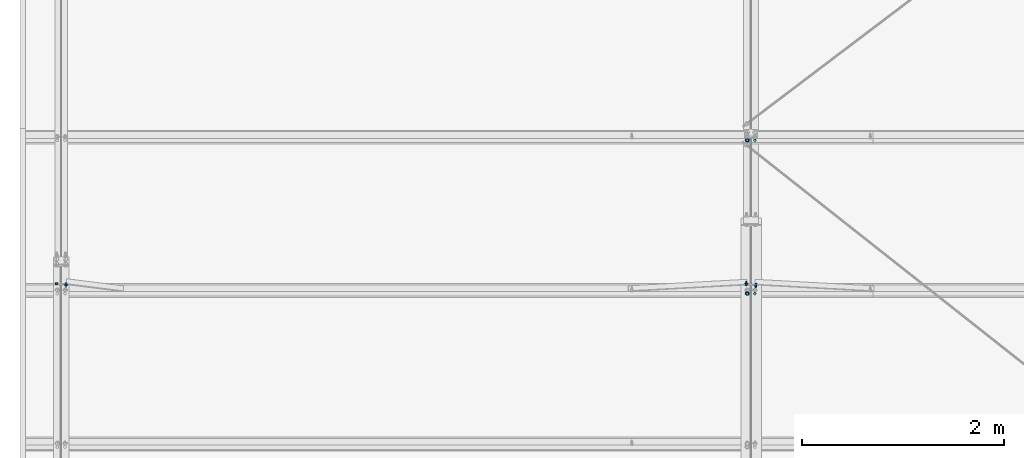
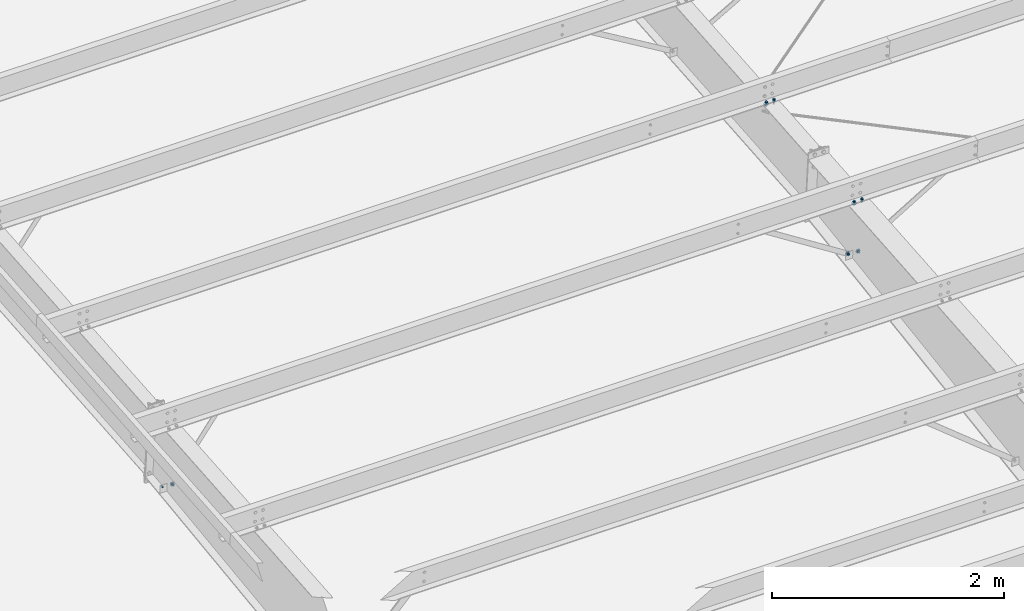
# One storey, part 123 of 185: 11 mechanical fasteners, 7 elements without a shape of their own.
"""IFC2X3 building model written with IfcOpenShell, lengths in millimetres."""

from ifc_helpers import new_model, si_unit, frame, origin_with_axes, origin_2d_with_axis, place, context, subcontext, project, spatial, polyline, circle, outline, extrude, source, transform, mapped, material, type_object, element, aggregate, save


model = new_model("IFC2X3")

# Units and contexts
model_context = context("Model", 3, precision=1e-05, world=origin_with_axes())
body_context = subcontext(model_context, "Body", "Model", "MODEL_VIEW")
ifc_project = project(units=[si_unit("LENGTHUNIT", "METRE", prefix="MILLI"), si_unit("AREAUNIT", "SQUARE_METRE"), si_unit("VOLUMEUNIT", "CUBIC_METRE"), si_unit("MASSUNIT", "GRAM", prefix="KILO"), si_unit("TIMEUNIT", "SECOND"), si_unit("PLANEANGLEUNIT", "RADIAN"), si_unit("SOLIDANGLEUNIT", "STERADIAN"), si_unit("THERMODYNAMICTEMPERATUREUNIT", "DEGREE_CELSIUS"), si_unit("LUMINOUSINTENSITYUNIT", "LUMEN")], contexts=[model_context])

# Site, building, storey
site_placement = place(None, origin_with_axes())
site = spatial("IfcSite", under=ifc_project, at=site_placement, Name="Undefined", CompositionType="ELEMENT")
building_placement = place(site_placement, origin_with_axes())
building = spatial("IfcBuilding", under=site, at=building_placement, Name="Undefined", CompositionType="ELEMENT")
storey_placement = place(building_placement, origin_with_axes())
storey = spatial("IfcBuildingStorey", under=building, at=storey_placement, Name="Undefined", CompositionType="ELEMENT", Elevation=0.0)

# Assembly, mechanical fastener
assembly_1_placement = place(storey_placement, origin_with_axes())
assembly_1 = element("IfcElementAssembly", 1, at=assembly_1_placement, inside=storey, Name="Steel Assembly", AssemblyPlace="NOTDEFINED", PredefinedType="RIGID_FRAME")
ifc_material_1 = material(Name="Undefined")
discrete_accessory_type = type_object("IfcDiscreteAccessoryType", Name="Bolt assembly")
shared_shape_1 = source(origin_with_axes(), body_context, "Body", "SweptSolid", [
    extrude(circle(Radius=7.14374971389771, at=origin_2d_with_axis()), frame((0.0, -1.59000001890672, 0.0), z_axis=(0.0, 1.0, 0.0), x_axis=(1.0, 0.0, 0.0)), (0.0, 0.0, 1.0), 1.7),
    extrude(outline(polyline([(10.9985221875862, 0.0), (5.4992610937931, 9.52499961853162), (-5.4992610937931, 9.52499961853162), (-10.9985221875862, 0.0), (-5.4992610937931, -9.52499961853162), (5.4992610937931, -9.52499961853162), (10.9985221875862, 0.0)])), frame((0.0, -15.0837496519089, 0.0), z_axis=(0.0, 1.0, 0.0), x_axis=(1.0, 0.0, 0.0)), (0.0, 0.0, 1.0), 9.5),
    extrude(circle(Radius=6.34999990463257, at=origin_2d_with_axis()), frame((0.0, -5.5587500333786, 0.0), z_axis=(0.0, 1.0, 0.0), x_axis=(1.0, 0.0, 0.0)), (0.0, 0.0, 1.0), 38.1),
    extrude(circle(Radius=13.4937496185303, at=origin_2d_with_axis()), frame((0.0, -5.5587500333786, 0.0), z_axis=(0.0, 1.0, 0.0), x_axis=(1.0, 0.0, 0.0)), (0.0, 0.0, 1.0), 4.0),
    extrude(circle(Radius=22.2250003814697, at=origin_2d_with_axis()), frame((0.0, 0.0, 0.0), z_axis=(0.0, 1.0, 0.0), x_axis=(1.0, 0.0, 0.0)), (0.0, 0.0, 1.0), 7.9),
    extrude(outline(polyline([(12.8316099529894, 0.0), (6.4158049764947, 11.1125001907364), (-6.4158049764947, 11.1125001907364), (-12.8316099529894, 0.0), (-6.4158049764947, -11.1125001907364), (6.4158049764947, -11.1125001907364), (12.8316099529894, 0.0)])), frame((0.0, 7.93750000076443, 0.0), z_axis=(0.0, 1.0, 0.0), x_axis=(1.0, 0.0, 0.0)), (0.0, 0.0, 1.0), 12.3),
])
mechanical_fastener_1_placement = place(assembly_1_placement, frame((453.778596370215, 5139.48666846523, 5649.65611461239), z_axis=(0.836906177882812, 0.0454546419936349, -0.545455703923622), x_axis=(0.54734637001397, -0.0695012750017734, 0.834015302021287)))
mechanical_fastener_1 = element("IfcMechanicalFastener", 2, at=mechanical_fastener_1_placement, type_object=discrete_accessory_type, material=ifc_material_1, Name="Bolt assembly", NominalDiameter=12.6999998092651, NominalLength=38.0999984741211, context=body_context, shape_type="MappedRepresentation", body=[
    mapped(shared_shape_1, transform((0.0, 0.0, 0.0))),
])
aggregate(assembly_1, [mechanical_fastener_1])

assembly_2_placement = place(storey_placement, origin_with_axes())
assembly_2 = element("IfcElementAssembly", 3, at=assembly_2_placement, inside=storey, Name="Steel Assembly", AssemblyPlace="NOTDEFINED", PredefinedType="RIGID_FRAME")
mechanical_fastener_2_placement = place(assembly_2_placement, frame((7286.66392618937, 5133.85828382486, 5717.19673029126), z_axis=(0.553384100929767, 0.0691707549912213, -0.830049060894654), x_axis=(0.832926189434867, -0.0459560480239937, 0.551472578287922)))
mechanical_fastener_2 = element("IfcMechanicalFastener", 4, at=mechanical_fastener_2_placement, type_object=discrete_accessory_type, material=ifc_material_1, Name="Bolt assembly", NominalDiameter=12.6999998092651, NominalLength=38.0999984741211, context=body_context, shape_type="MappedRepresentation", body=[
    mapped(shared_shape_1, transform((0.0, 0.0, 0.0))),
])
aggregate(assembly_2, [mechanical_fastener_2])

assembly_3_placement = place(storey_placement, origin_with_axes())
assembly_3 = element("IfcElementAssembly", 5, at=assembly_3_placement, inside=storey, Name="Steel Assembly", AssemblyPlace="NOTDEFINED", PredefinedType="RIGID_FRAME")
shared_shape_2 = source(origin_with_axes(), body_context, "Body", "SweptSolid", [
    extrude(circle(Radius=7.14374971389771, at=origin_2d_with_axis()), frame((0.0, 0.0, 0.0), z_axis=(0.0, 1.0, 0.0), x_axis=(1.0, 0.0, 0.0)), (0.0, 0.0, 1.0), 1.7),
    extrude(outline(polyline([(10.9985221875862, 0.0), (5.4992610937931, 9.52499961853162), (-5.4992610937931, 9.52499961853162), (-10.9985221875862, 0.0), (-5.4992610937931, -9.52499961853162), (5.4992610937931, -9.52499961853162), (10.9985221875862, 0.0)])), frame((0.0, -13.4937496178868, 0.0), z_axis=(0.0, 1.0, 0.0), x_axis=(1.0, 0.0, 0.0)), (0.0, 0.0, 1.0), 9.5),
    extrude(circle(Radius=6.34999990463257, at=origin_2d_with_axis()), frame((0.0, -3.96874999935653, 0.0), z_axis=(0.0, 1.0, 0.0), x_axis=(1.0, 0.0, 0.0)), (0.0, 0.0, 1.0), 38.1),
    extrude(circle(Radius=13.4937496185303, at=origin_2d_with_axis()), frame((0.0, -3.96874999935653, 0.0), z_axis=(0.0, 1.0, 0.0), x_axis=(1.0, 0.0, 0.0)), (0.0, 0.0, 1.0), 4.0),
    extrude(circle(Radius=22.2250003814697, at=origin_2d_with_axis()), frame((0.0, 1.5900000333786, 0.0), z_axis=(0.0, 1.0, 0.0), x_axis=(1.0, 0.0, 0.0)), (0.0, 0.0, 1.0), 7.9),
    extrude(outline(polyline([(12.8316099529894, 0.0), (6.4158049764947, 11.1125001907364), (-6.4158049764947, 11.1125001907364), (-12.8316099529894, 0.0), (-6.4158049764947, -11.1125001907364), (6.4158049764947, -11.1125001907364), (12.8316099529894, 0.0)])), frame((0.0, 9.5275000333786, 0.0), z_axis=(0.0, 1.0, 0.0), x_axis=(1.0, 0.0, 0.0)), (0.0, 0.0, 1.0), 12.3),
])
mechanical_fastener_3_placement = place(assembly_3_placement, frame((7191.33607381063, 5133.85828382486, 5717.19673029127), z_axis=(-0.553384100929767, 0.0691707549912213, -0.830049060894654), x_axis=(-0.832926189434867, -0.0459560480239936, 0.551472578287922)))
mechanical_fastener_3 = element("IfcMechanicalFastener", 6, at=mechanical_fastener_3_placement, type_object=discrete_accessory_type, material=ifc_material_1, Name="Bolt assembly", NominalDiameter=12.6999998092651, NominalLength=38.0999984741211, context=body_context, shape_type="MappedRepresentation", body=[
    mapped(shared_shape_2, transform((0.0, 0.0, 0.0))),
])
aggregate(assembly_3, [mechanical_fastener_3])

assembly_4_placement = place(storey_placement, origin_with_axes())
assembly_4 = element("IfcElementAssembly", 7, at=assembly_4_placement, inside=storey, Name="Steel Assembly", AssemblyPlace="NOTDEFINED", PredefinedType="RIGID_FRAME")
ifc_material_2 = material(Name="7990")
shared_shape_3 = source(origin_with_axes(), body_context, "Body", "SweptSolid", [
    extrude(circle(Radius=7.14374971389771, at=origin_2d_with_axis()), frame((0.0, -3.41600000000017, 0.0), z_axis=(0.0, 1.0, 0.0), x_axis=(1.0, 0.0, 0.0)), (0.0, 0.0, 1.0), 3.5),
    extrude(circle(Radius=11.4299998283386, at=origin_2d_with_axis()), frame((0.0, 0.0, 0.0), z_axis=(0.0, 1.0, 0.0), x_axis=(1.0, 0.0, 0.0)), (0.0, 0.0, 1.0), 4.2),
    extrude(outline(polyline([(12.171698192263, 0.0), (6.08584909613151, 10.5409998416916), (-6.08584909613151, 10.5409998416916), (-12.171698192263, 0.0), (-6.08584909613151, -10.5409998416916), (6.08584909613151, -10.5409998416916), (12.171698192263, 0.0)])), frame((0.0, 4.1909999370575, 0.0), z_axis=(0.0, 1.0, 0.0), x_axis=(1.0, 0.0, 0.0)), (0.0, 0.0, 1.0), 8.4),
])
mechanical_fastener_4_placement = place(assembly_4_placement, frame((359.568750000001, 5139.55616974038, 5648.82209931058), z_axis=(0.921635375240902, 0.0322263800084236, -0.386716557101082), x_axis=(-0.388056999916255, 0.0765376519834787, -0.9184518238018)))
mechanical_fastener_4 = element("IfcMechanicalFastener", 8, at=mechanical_fastener_4_placement, type_object=discrete_accessory_type, material=ifc_material_2, Name="Bolt assembly", NominalDiameter=12.6999998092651, NominalLength=38.0999984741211, context=body_context, shape_type="MappedRepresentation", body=[
    mapped(shared_shape_3, transform((0.0, 0.0, 0.0))),
])

assembly_5_placement = place(storey_placement, origin_with_axes())
assembly_5 = element("IfcElementAssembly", 9, at=assembly_5_placement, inside=storey, Name="Steel Assembly", AssemblyPlace="NOTDEFINED", PredefinedType="RIGID_FRAME")
mechanical_fastener_5_placement = place(assembly_5_placement, frame((7192.169, 5133.90423987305, 5716.64525771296), z_axis=(0.921635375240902, 0.0322263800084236, -0.386716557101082), x_axis=(-0.388056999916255, 0.0765376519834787, -0.9184518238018)))
mechanical_fastener_5 = element("IfcMechanicalFastener", 10, at=mechanical_fastener_5_placement, type_object=discrete_accessory_type, material=ifc_material_2, Name="Bolt assembly", NominalDiameter=12.6999998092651, NominalLength=38.0999984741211, context=body_context, shape_type="MappedRepresentation", body=[
    mapped(shared_shape_3, transform((0.0, 0.0, 0.0))),
])

# Mechanical fastener
shared_shape_4 = source(origin_with_axes(), body_context, "Body", "SweptSolid", [
    extrude(circle(Radius=7.14374971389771, at=origin_2d_with_axis()), frame((0.0, 0.0, 0.0), z_axis=(0.0, 1.0, 0.0), x_axis=(1.0, 0.0, 0.0)), (0.0, 0.0, 1.0), 3.5),
    extrude(circle(Radius=11.4299998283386, at=origin_2d_with_axis()), frame((0.0, 3.41600000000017, 0.0), z_axis=(0.0, 1.0, 0.0), x_axis=(1.0, 0.0, 0.0)), (0.0, 0.0, 1.0), 4.2),
    extrude(outline(polyline([(12.171698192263, 0.0), (6.08584909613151, 10.5409998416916), (-6.08584909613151, 10.5409998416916), (-12.171698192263, 0.0), (-6.08584909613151, -10.5409998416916), (6.08584909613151, -10.5409998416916), (12.171698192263, 0.0)])), frame((0.0, 7.60699993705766, 0.0), z_axis=(0.0, 1.0, 0.0), x_axis=(1.0, 0.0, 0.0)), (0.0, 0.0, 1.0), 8.4),
])
mechanical_fastener_6_placement = place(assembly_4_placement, frame((453.231250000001, 5139.55616974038, 5648.82209931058), z_axis=(-0.921635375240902, 0.0322263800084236, -0.386716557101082), x_axis=(0.388056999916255, 0.0765376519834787, -0.9184518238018)))
mechanical_fastener_6 = element("IfcMechanicalFastener", 11, at=mechanical_fastener_6_placement, type_object=discrete_accessory_type, material=ifc_material_2, Name="Bolt assembly", NominalDiameter=12.6999998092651, NominalLength=38.0999984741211, context=body_context, shape_type="MappedRepresentation", body=[
    mapped(shared_shape_4, transform((0.0, 0.0, 0.0))),
])

aggregate(assembly_4, [mechanical_fastener_6, mechanical_fastener_4])

mechanical_fastener_7_placement = place(assembly_5_placement, frame((7285.831, 5133.90423987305, 5716.64525771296), z_axis=(-0.921635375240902, 0.0322263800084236, -0.386716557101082), x_axis=(0.388056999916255, 0.0765376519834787, -0.9184518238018)))
mechanical_fastener_7 = element("IfcMechanicalFastener", 12, at=mechanical_fastener_7_placement, type_object=discrete_accessory_type, material=ifc_material_2, Name="Bolt assembly", NominalDiameter=12.6999998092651, NominalLength=38.0999984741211, context=body_context, shape_type="MappedRepresentation", body=[
    mapped(shared_shape_4, transform((0.0, 0.0, 0.0))),
])

aggregate(assembly_5, [mechanical_fastener_7, mechanical_fastener_5])

# Assembly, mechanical fasteners
assembly_6_placement = place(storey_placement, origin_with_axes())
assembly_6 = element("IfcElementAssembly", 13, at=assembly_6_placement, inside=storey, Name="Steel Assembly", AssemblyPlace="NOTDEFINED", PredefinedType="RIGID_FRAME")
shared_shape_5 = source(origin_with_axes(), body_context, "Body", "SweptSolid", [
    extrude(circle(Radius=7.14374971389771, at=origin_2d_with_axis()), frame((0.0, -0.0238014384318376, 0.0), z_axis=(0.0, 1.0, 0.0), x_axis=(1.0, 0.0, 0.0)), (0.0, 0.0, 1.0), 8.0),
    extrude(circle(Radius=7.14374971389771, at=origin_2d_with_axis()), frame((0.0, -3.18000030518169, 0.0), z_axis=(0.0, 1.0, 0.0), x_axis=(1.0, 0.0, 0.0)), (0.0, 0.0, 1.0), 3.2),
    extrude(circle(Radius=7.14374971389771, at=origin_2d_with_axis()), frame((0.0, -3.08000006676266, 0.0), z_axis=(0.0, 1.0, 0.0), x_axis=(1.0, 0.0, 0.0)), (0.0, 0.0, 1.0), 3.2),
    extrude(outline(polyline([(12.8316099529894, 0.0), (6.4158049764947, 11.1125001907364), (-6.4158049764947, 11.1125001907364), (-12.8316099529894, 0.0), (-6.4158049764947, -11.1125001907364), (6.4158049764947, -11.1125001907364), (12.8316099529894, 0.0)])), frame((0.0, -15.08625183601, 0.0), z_axis=(0.0, 1.0, 0.0), x_axis=(1.0, 0.0, 0.0)), (0.0, 0.0, 1.0), 7.9),
    extrude(circle(Radius=6.34999990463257, at=origin_2d_with_axis()), frame((0.0, -7.14875006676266, 0.0), z_axis=(0.0, 1.0, 0.0), x_axis=(1.0, 0.0, 0.0)), (0.0, 0.0, 1.0), 50.8),
    extrude(circle(Radius=13.4937496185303, at=origin_2d_with_axis()), frame((0.0, -7.14875006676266, 0.0), z_axis=(0.0, 1.0, 0.0), x_axis=(1.0, 0.0, 0.0)), (0.0, 0.0, 1.0), 4.0),
    extrude(circle(Radius=22.2250003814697, at=origin_2d_with_axis()), frame((0.0, 7.95019856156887, 0.0), z_axis=(0.0, 1.0, 0.0), x_axis=(1.0, 0.0, 0.0)), (0.0, 0.0, 1.0), 7.9),
    extrude(outline(polyline([(12.8316099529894, 0.0), (6.4158049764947, 11.1125001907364), (-6.4158049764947, 11.1125001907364), (-12.8316099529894, 0.0), (-6.4158049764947, -11.1125001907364), (6.4158049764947, -11.1125001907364), (12.8316099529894, 0.0)])), frame((0.0, 15.8876985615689, 0.0), z_axis=(0.0, 1.0, 0.0), x_axis=(1.0, 0.0, 0.0)), (0.0, 0.0, 1.0), 12.3),
])
mechanical_fastener_8_placement = place(assembly_6_placement, frame((7200.9, 6564.74531362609, 6439.15777570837), z_axis=(1.0, 0.0, 0.0), x_axis=(0.0, -0.996545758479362, -0.0830454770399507)))
mechanical_fastener_8 = element("IfcMechanicalFastener", 14, at=mechanical_fastener_8_placement, type_object=discrete_accessory_type, material=ifc_material_1, Name="Bolt assembly", NominalDiameter=12.6999998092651, NominalLength=50.7999992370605, context=body_context, shape_type="MappedRepresentation", body=[
    mapped(shared_shape_5, transform((0.0, 0.0, 0.0))),
])
shared_shape_6 = source(origin_with_axes(), body_context, "Body", "SweptSolid", [
    extrude(circle(Radius=7.14374971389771, at=origin_2d_with_axis()), frame((0.0, -0.0238014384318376, 0.0), z_axis=(0.0, 1.0, 0.0), x_axis=(1.0, 0.0, 0.0)), (0.0, 0.0, 1.0), 8.0),
    extrude(circle(Radius=7.14374971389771, at=origin_2d_with_axis()), frame((0.0, -3.18000030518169, 0.0), z_axis=(0.0, 1.0, 0.0), x_axis=(1.0, 0.0, 0.0)), (0.0, 0.0, 1.0), 3.2),
    extrude(circle(Radius=7.14374971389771, at=origin_2d_with_axis()), frame((0.0, -3.08000006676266, 0.0), z_axis=(0.0, 1.0, 0.0), x_axis=(1.0, 0.0, 0.0)), (0.0, 0.0, 1.0), 3.2),
    extrude(outline(polyline([(12.8316099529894, 0.0), (6.4158049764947, 11.1125001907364), (-6.4158049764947, 11.1125001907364), (-12.8316099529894, 0.0), (-6.4158049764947, -11.1125001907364), (6.4158049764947, -11.1125001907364), (12.8316099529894, 0.0)])), frame((0.0, -15.08625183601, 0.0), z_axis=(0.0, 1.0, 0.0), x_axis=(1.0, 0.0, 0.0)), (0.0, 0.0, 1.0), 7.9),
    extrude(circle(Radius=6.34999990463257, at=origin_2d_with_axis()), frame((0.0, -7.14875006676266, 0.0), z_axis=(0.0, 1.0, 0.0), x_axis=(1.0, 0.0, 0.0)), (0.0, 0.0, 1.0), 50.8),
    extrude(circle(Radius=13.4937496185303, at=origin_2d_with_axis()), frame((0.0, -7.14875006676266, 0.0), z_axis=(0.0, 1.0, 0.0), x_axis=(1.0, 0.0, 0.0)), (0.0, 0.0, 1.0), 4.0),
    extrude(outline(polyline([(12.8316099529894, 0.0), (6.4158049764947, 11.1125001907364), (-6.4158049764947, 11.1125001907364), (-12.8316099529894, 0.0), (-6.4158049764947, -11.1125001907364), (6.4158049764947, -11.1125001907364), (12.8316099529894, 0.0)])), frame((0.0, 7.95019856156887, 0.0), z_axis=(0.0, 1.0, 0.0), x_axis=(1.0, 0.0, 0.0)), (0.0, 0.0, 1.0), 12.3),
])
mechanical_fastener_9_placement = place(assembly_6_placement, frame((7277.1, 6564.74531362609, 6439.15777570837), z_axis=(1.0, 0.0, 0.0), x_axis=(0.0, -0.996545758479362, -0.0830454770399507)))
mechanical_fastener_9 = element("IfcMechanicalFastener", 15, at=mechanical_fastener_9_placement, type_object=discrete_accessory_type, material=ifc_material_1, Name="Bolt assembly", NominalDiameter=12.6999998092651, NominalLength=50.7999992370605, context=body_context, shape_type="MappedRepresentation", body=[
    mapped(shared_shape_6, transform((0.0, 0.0, 0.0))),
])
aggregate(assembly_6, [mechanical_fastener_8, mechanical_fastener_9])

assembly_7_placement = place(storey_placement, origin_with_axes())
assembly_7 = element("IfcElementAssembly", 16, at=assembly_7_placement, inside=storey, Name="Steel Assembly", AssemblyPlace="NOTDEFINED", PredefinedType="RIGID_FRAME")
shared_shape_7 = source(origin_with_axes(), body_context, "Body", "SweptSolid", [
    extrude(circle(Radius=7.14374971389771, at=origin_2d_with_axis()), frame((0.0, -0.0897199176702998, 0.0), z_axis=(0.0, 1.0, 0.0), x_axis=(1.0, 0.0, 0.0)), (0.0, 0.0, 1.0), 8.0),
    extrude(circle(Radius=7.14374971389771, at=origin_2d_with_axis()), frame((0.0, -3.18000030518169, 0.0), z_axis=(0.0, 1.0, 0.0), x_axis=(1.0, 0.0, 0.0)), (0.0, 0.0, 1.0), 3.2),
    extrude(circle(Radius=7.14374971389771, at=origin_2d_with_axis()), frame((0.0, -3.08000006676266, 0.0), z_axis=(0.0, 1.0, 0.0), x_axis=(1.0, 0.0, 0.0)), (0.0, 0.0, 1.0), 3.2),
    extrude(outline(polyline([(10.9985221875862, 0.0), (5.4992610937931, 9.52499961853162), (-5.4992610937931, 9.52499961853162), (-10.9985221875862, 0.0), (-5.4992610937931, -9.52499961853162), (5.4992610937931, -9.52499961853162), (10.9985221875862, 0.0)])), frame((0.0, -16.6737496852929, 0.0), z_axis=(0.0, 1.0, 0.0), x_axis=(1.0, 0.0, 0.0)), (0.0, 0.0, 1.0), 9.5),
    extrude(circle(Radius=6.34999990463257, at=origin_2d_with_axis()), frame((0.0, -7.14875006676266, 0.0), z_axis=(0.0, 1.0, 0.0), x_axis=(1.0, 0.0, 0.0)), (0.0, 0.0, 1.0), 38.1),
    extrude(circle(Radius=13.4937496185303, at=origin_2d_with_axis()), frame((0.0, -7.14875006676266, 0.0), z_axis=(0.0, 1.0, 0.0), x_axis=(1.0, 0.0, 0.0)), (0.0, 0.0, 1.0), 4.0),
    extrude(circle(Radius=22.2250003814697, at=origin_2d_with_axis()), frame((0.0, 7.88428008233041, 0.0), z_axis=(0.0, 1.0, 0.0), x_axis=(1.0, 0.0, 0.0)), (0.0, 0.0, 1.0), 7.9),
    extrude(outline(polyline([(12.8316099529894, 0.0), (6.4158049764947, 11.1125001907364), (-6.4158049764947, 11.1125001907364), (-12.8316099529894, 0.0), (-6.4158049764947, -11.1125001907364), (6.4158049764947, -11.1125001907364), (12.8316099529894, 0.0)])), frame((0.0, 15.8217800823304, 0.0), z_axis=(0.0, 1.0, 0.0), x_axis=(1.0, 0.0, 0.0)), (0.0, 0.0, 1.0), 12.3),
])
mechanical_fastener_10_placement = place(assembly_7_placement, frame((7200.9, 5046.00957656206, 6312.59646403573), z_axis=(1.0, 0.0, 0.0), x_axis=(0.0, -0.996545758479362, -0.0830454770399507)))
mechanical_fastener_10 = element("IfcMechanicalFastener", 17, at=mechanical_fastener_10_placement, type_object=discrete_accessory_type, material=ifc_material_1, Name="Bolt assembly", NominalDiameter=12.6999998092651, NominalLength=38.0999984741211, context=body_context, shape_type="MappedRepresentation", body=[
    mapped(shared_shape_7, transform((0.0, 0.0, 0.0))),
])
shared_shape_8 = source(origin_with_axes(), body_context, "Body", "SweptSolid", [
    extrude(circle(Radius=7.14374971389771, at=origin_2d_with_axis()), frame((0.0, -0.0897199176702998, 0.0), z_axis=(0.0, 1.0, 0.0), x_axis=(1.0, 0.0, 0.0)), (0.0, 0.0, 1.0), 8.0),
    extrude(circle(Radius=7.14374971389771, at=origin_2d_with_axis()), frame((0.0, -3.18000030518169, 0.0), z_axis=(0.0, 1.0, 0.0), x_axis=(1.0, 0.0, 0.0)), (0.0, 0.0, 1.0), 3.2),
    extrude(circle(Radius=7.14374971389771, at=origin_2d_with_axis()), frame((0.0, -3.08000006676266, 0.0), z_axis=(0.0, 1.0, 0.0), x_axis=(1.0, 0.0, 0.0)), (0.0, 0.0, 1.0), 3.2),
    extrude(outline(polyline([(10.9985221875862, 0.0), (5.4992610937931, 9.52499961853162), (-5.4992610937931, 9.52499961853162), (-10.9985221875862, 0.0), (-5.4992610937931, -9.52499961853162), (5.4992610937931, -9.52499961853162), (10.9985221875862, 0.0)])), frame((0.0, -16.6737496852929, 0.0), z_axis=(0.0, 1.0, 0.0), x_axis=(1.0, 0.0, 0.0)), (0.0, 0.0, 1.0), 9.5),
    extrude(circle(Radius=6.34999990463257, at=origin_2d_with_axis()), frame((0.0, -7.14875006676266, 0.0), z_axis=(0.0, 1.0, 0.0), x_axis=(1.0, 0.0, 0.0)), (0.0, 0.0, 1.0), 38.1),
    extrude(circle(Radius=13.4937496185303, at=origin_2d_with_axis()), frame((0.0, -7.14875006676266, 0.0), z_axis=(0.0, 1.0, 0.0), x_axis=(1.0, 0.0, 0.0)), (0.0, 0.0, 1.0), 4.0),
    extrude(outline(polyline([(12.8316099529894, 0.0), (6.4158049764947, 11.1125001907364), (-6.4158049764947, 11.1125001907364), (-12.8316099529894, 0.0), (-6.4158049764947, -11.1125001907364), (6.4158049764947, -11.1125001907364), (12.8316099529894, 0.0)])), frame((0.0, 7.88428008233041, 0.0), z_axis=(0.0, 1.0, 0.0), x_axis=(1.0, 0.0, 0.0)), (0.0, 0.0, 1.0), 12.3),
])
mechanical_fastener_11_placement = place(assembly_7_placement, frame((7277.1, 5046.00957656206, 6312.59646403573), z_axis=(1.0, 0.0, 0.0), x_axis=(0.0, -0.996545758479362, -0.0830454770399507)))
mechanical_fastener_11 = element("IfcMechanicalFastener", 18, at=mechanical_fastener_11_placement, type_object=discrete_accessory_type, material=ifc_material_1, Name="Bolt assembly", NominalDiameter=12.6999998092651, NominalLength=38.0999984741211, context=body_context, shape_type="MappedRepresentation", body=[
    mapped(shared_shape_8, transform((0.0, 0.0, 0.0))),
])
aggregate(assembly_7, [mechanical_fastener_10, mechanical_fastener_11])

save(model, "model.ifc")
